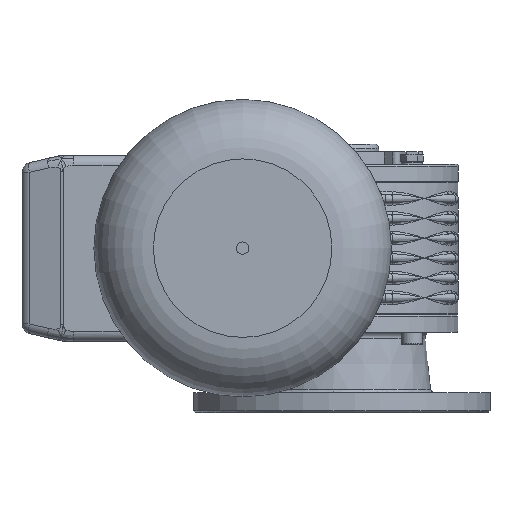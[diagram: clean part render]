
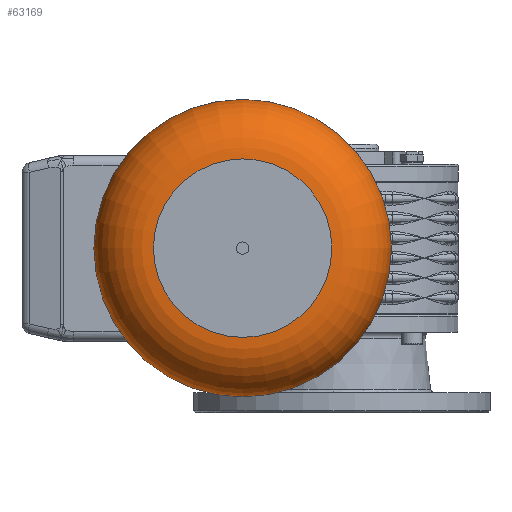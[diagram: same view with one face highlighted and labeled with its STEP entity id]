
A CAD part, left-side view. The second image highlights one B-rep face of the part: STEP entity #63169.
In plain terms, the highlighted toroidal (fillet/blend) face has major radius 36 mm and minor radius 24 mm.
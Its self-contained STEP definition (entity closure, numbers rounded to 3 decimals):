
#63142=CARTESIAN_POINT('',(236.0,0.0,0.0));
#63143=DIRECTION('',(1.0,0.0,0.0));
#63144=DIRECTION('',(0.0,0.0,-1.0));
#63145=AXIS2_PLACEMENT_3D('',#63142,#63143,#63144);
#63146=TOROIDAL_SURFACE('',#63145,36.,24.0);
#63147=CARTESIAN_POINT('',(260.0,36.,0.0));
#63148=VERTEX_POINT('',#63147);
#63149=CARTESIAN_POINT('',(260.0,0.0,0.0));
#63150=DIRECTION('',(1.0,0.0,0.0));
#63151=DIRECTION('',(0.0,1.0,0.0));
#63152=AXIS2_PLACEMENT_3D('',#63149,#63150,#63151);
#63153=CIRCLE('',#63152,36.);
#63154=EDGE_CURVE('',#63148,#63148,#63153,.T.);
#63155=ORIENTED_EDGE('',*,*,#63154,.F.);
#63156=EDGE_LOOP('',(#63155));
#63157=FACE_OUTER_BOUND('',#63156,.T.);
#63158=CARTESIAN_POINT('',(236.0,60.,0.0));
#63159=VERTEX_POINT('',#63158);
#63160=CARTESIAN_POINT('',(236.0,0.0,0.0));
#63161=DIRECTION('',(1.0,0.0,0.0));
#63162=DIRECTION('',(0.0,1.0,0.0));
#63163=AXIS2_PLACEMENT_3D('',#63160,#63161,#63162);
#63164=CIRCLE('',#63163,60.);
#63165=EDGE_CURVE('',#63159,#63159,#63164,.T.);
#63166=ORIENTED_EDGE('',*,*,#63165,.T.);
#63167=EDGE_LOOP('',(#63166));
#63168=FACE_BOUND('',#63167,.T.);
#63169=ADVANCED_FACE('',(#63157,#63168),#63146,.T.);
